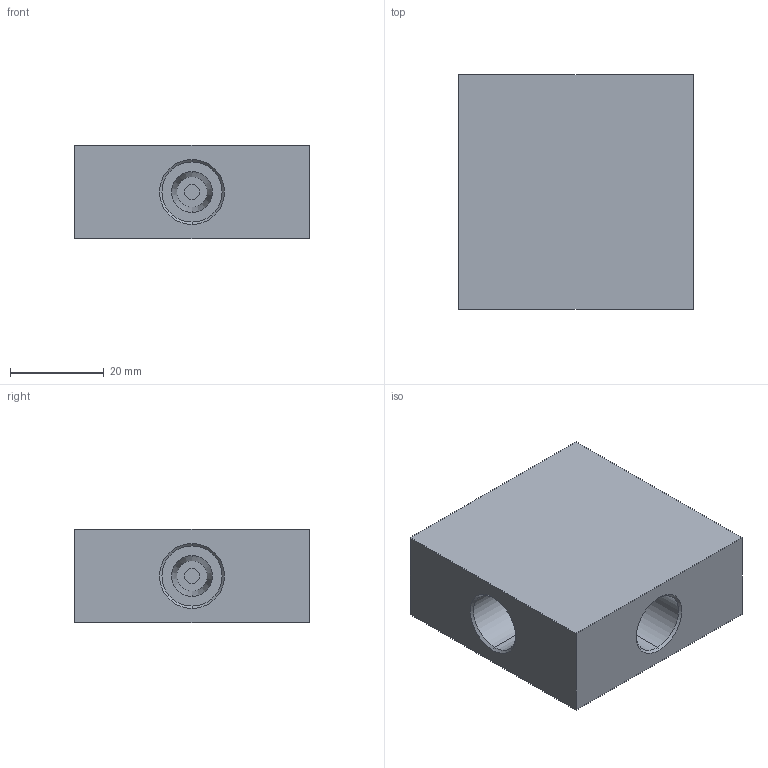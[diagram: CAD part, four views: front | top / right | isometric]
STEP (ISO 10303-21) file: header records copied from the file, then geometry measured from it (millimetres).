
FILE_DESCRIPTION (( 'STEP AP203' ), '1' );
FILE_NAME ('FT15CS04.STEP', '2026-06-26T00:47:29', ( 'USER' ), ( '' ), 'SwSTEP 2.0', 'SolidWorks 2023', '' );
FILE_SCHEMA (( 'CONFIG_CONTROL_DESIGN' ));
Length unit declared in the file: millimetre
Products named in the file (1): FT15CS04
Bounding box: 50 x 50 x 20 mm (x, y, z)
Volume: 43116 mm3; surface area: 11311.3 mm2
Topology: 1 solids, 1 shells, 58 faces, 116 edges, 72 vertices
Faces by surface type: cylinder 24, plane 18, cone 16
Entity records: 1593 total; most frequent: DIRECTION 298, CARTESIAN_POINT 247, ORIENTED_EDGE 232, AXIS2_PLACEMENT_3D 123, EDGE_CURVE 116, VERTEX_POINT 72, EDGE_LOOP 70, CIRCLE 64
